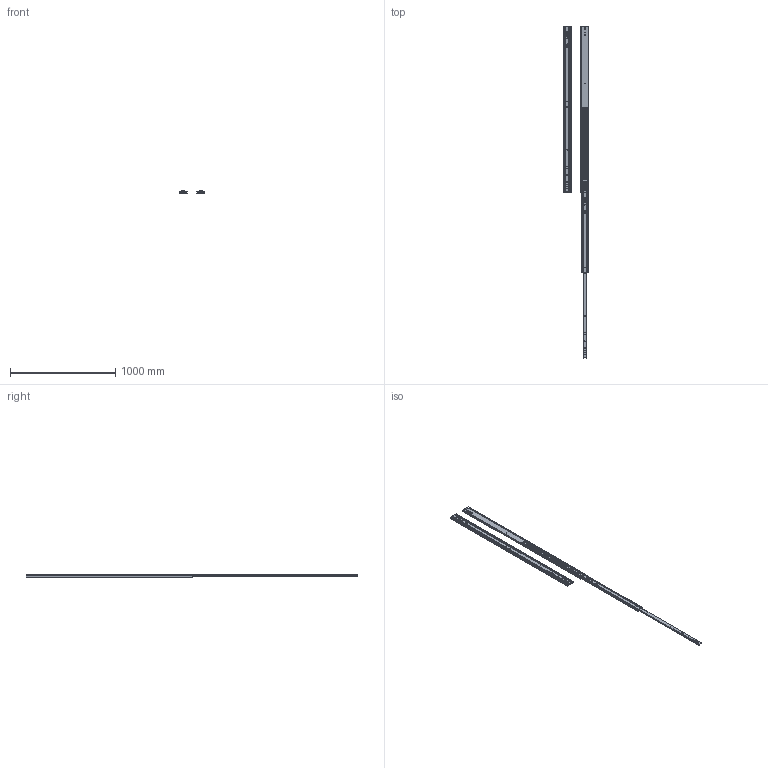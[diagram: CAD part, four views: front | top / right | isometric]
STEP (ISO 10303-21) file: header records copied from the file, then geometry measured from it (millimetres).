
FILE_DESCRIPTION((''),'2;1');
FILE_NAME('ASSEM1_1_2_3_4_5_6_7_8_9_10__28_ASM','2026-04-08T10:26:09',('T260078'),(''),'CREO PARAMETRIC BY PTC INC, 2025123','CREO PARAMETRIC BY PTC INC, 2025123','');
FILE_SCHEMA(('CONFIG_CONTROL_DESIGN','SHAPE_APPEARANCE_LAYERS_GROUPS'));
Length unit declared in the file: millimetre
Products named in the file (6): 76J01-62_X2_540B_X0_-M; 76J01-62_X2_540B_X0_-I; 76J01-62_X2_540B_X0_-O; 76J01-62_X2_540_X0__ASM; 76J01-62_X2_540B_X0_-_X2_5C5595_ASM; ASSEM1_1_2_3_4_5_6_7_8_9_10__28_ASM
Assembly tree (8 placements, depth 3):
  ASSEM1_1_2_3_4_5_6_7_8_9_10__28_ASM
    76J01-62_X2_540_X0__ASM
      76J01-62_X2_540B_X0_-M
      76J01-62_X2_540B_X0_-I
      76J01-62_X2_540B_X0_-O
    76J01-62_X2_540B_X0_-_X2_5C5595_ASM
      76J01-62_X2_540B_X0_-M
      76J01-62_X2_540B_X0_-I
      76J01-62_X2_540B_X0_-O
Bounding box: 245.44 x 3149.6 x 19.3 mm (x, y, z)
Volume: 1954755.9 mm3; surface area: 1740172.5 mm2
Topology: 6 solids, 6 shells, 380 faces, 1228 edges, 848 vertices
Faces by surface type: cylinder 212, plane 168
Entity records: 8392 total; most frequent: CARTESIAN_POINT 1337, DIRECTION 1244, ORIENTED_EDGE 1228, EDGE_CURVE 614, AXIS2_PLACEMENT_3D 444, VERTEX_POINT 424, VECTOR 356, LINE 356
